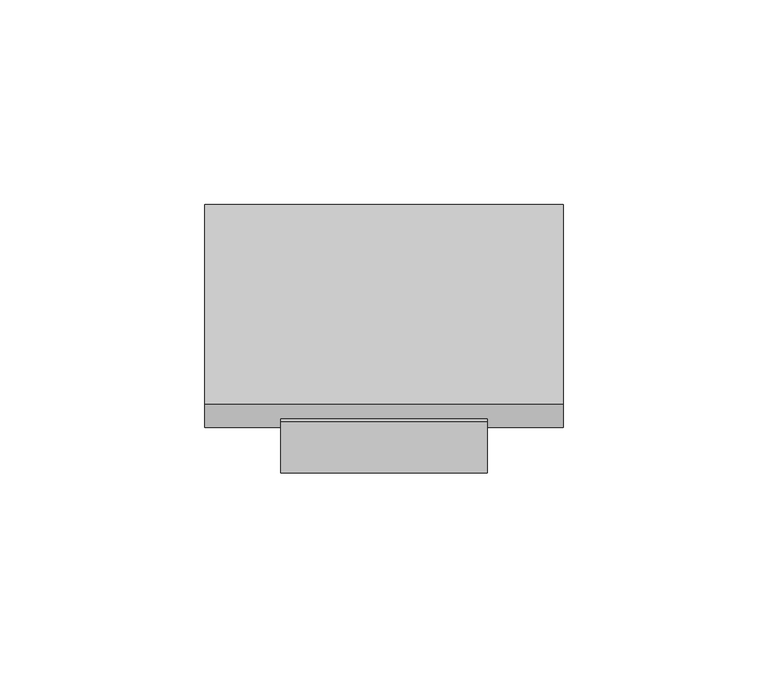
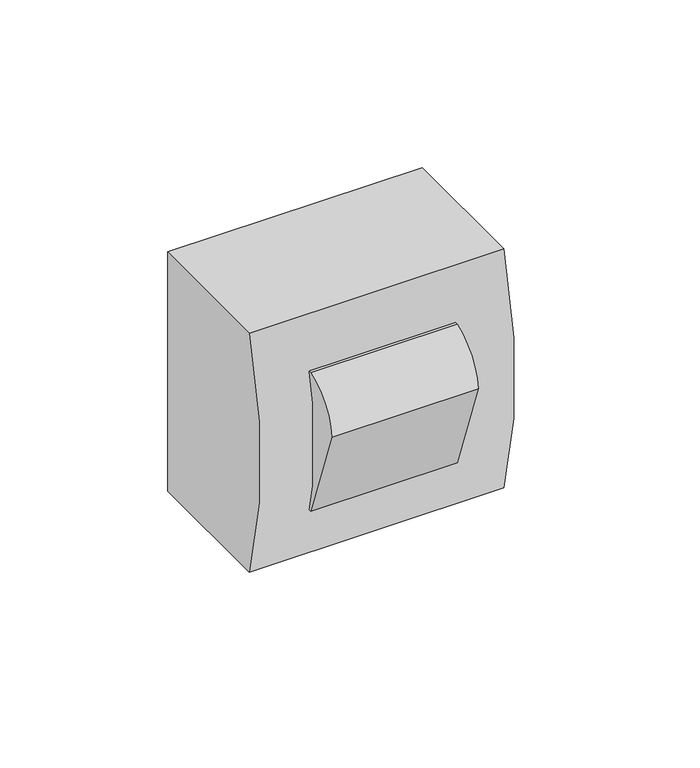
"""IFC4 building model written with IfcOpenShell, lengths in millimetres: proxy geometry, КНС_КоробкаВСбореСРозеткойRJ-45_ILF_DKC : Белая."""

from ifc_helpers import new_model, si_unit, point, frame, frame_2d, origin, place, context, project, spatial, polyline, circle_curve, trimmed, segment, composite_curve, outline, extrude, source, transform, mapped, element, save


def electrical_fixtures_13d03f2a(model_context):
    return source(origin(), model_context, "Body", "SweptSolid", [
        extrude(outline(composite_curve([segment(polyline([(-53.1416503, 25.2), (-48.7563703, 25.2), (-48.7563703, -25.2), (-53.1416503, -25.2), (-65.7, 9.3037821)]), True, "CONTINUOUS"), segment(trimmed(circle_curve(frame_2d((-47.3177248, 7.6901847)), 18.4529602), [point((-65.7, 9.3037821))], [point((-53.1416503, 25.2))], False, "CARTESIAN"), True, "CONTINUOUS")], self_intersect=False)), frame((-25.2, 0.0, 0.0), z_axis=(1.0, 0.0, 0.0), x_axis=(0.0, 1.0, 0.0)), (0.0, 0.0, 1.0), 50.4),
        extrude(outline(composite_curve([segment(polyline([(0.0, -43.55), (-48.7563703, -43.55)]), True, "CONTINUOUS"), segment(trimmed(circle_curve(frame_2d((92.8915747, 0.0)), 148.1915747), [point((-48.7563703, -43.55))], [point((-48.7563703, 43.55))], False, "CARTESIAN"), True, "CONTINUOUS"), segment(polyline([(-48.7563703, 43.55), (0.0, 43.55), (0.0, -43.55)]), True, "CONTINUOUS")], self_intersect=False)), frame((-43.85, 0.0, 0.0), z_axis=(1.0, 0.0, 0.0), x_axis=(0.0, 1.0, 0.0)), (0.0, 0.0, 1.0), 87.7),
    ])


if __name__ == "__main__":
    model = new_model("IFC4")
    model_context = context("Model", 3, world=origin())
    ifc_project = project(units=[si_unit("LENGTHUNIT", "METRE", prefix="MILLI")], contexts=[model_context])
    site = spatial("IfcSite", under=ifc_project)
    building = spatial("IfcBuilding", under=site)
    placement = place(None, origin())
    electrical_fixtures_shape = electrical_fixtures_13d03f2a(model_context)
    element("IfcBuildingElementProxy", 1, Name="КНС_КоробкаВСбореСРозеткойRJ-45_ILF_DKC : Белая", ObjectType="КНС_КоробкаВСбореСРозеткойRJ-45_ILF_DKC : Белая", at=placement, inside=building, context=model_context, shape_type="MappedRepresentation", body=[
        mapped(electrical_fixtures_shape, transform((0.0, 0.0, 0.0), x_axis=(1.0, 0.0, 0.0), y_axis=(0.0, 1.0, 0.0), z_axis=(0.0, 0.0, 1.0))),
    ])
    save(model, "model.ifc")
